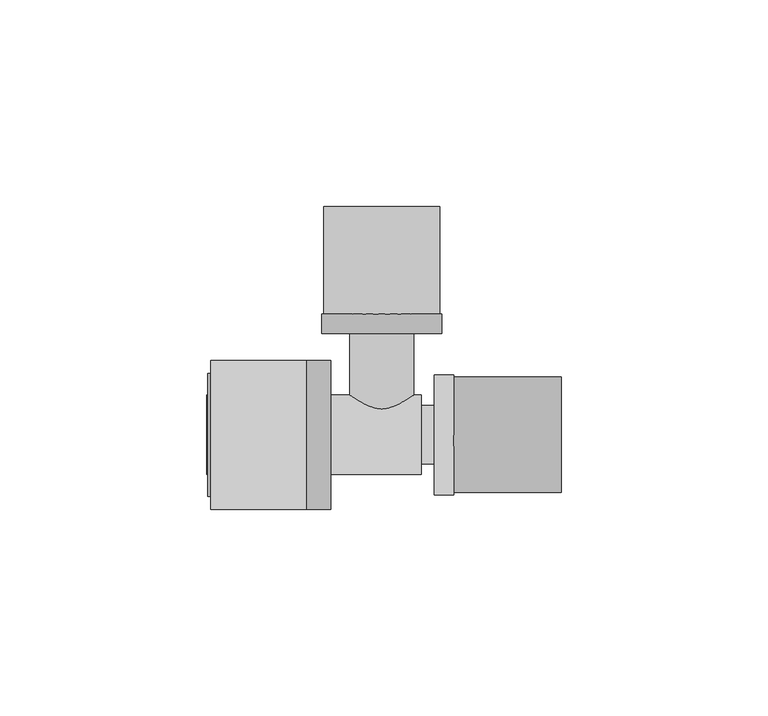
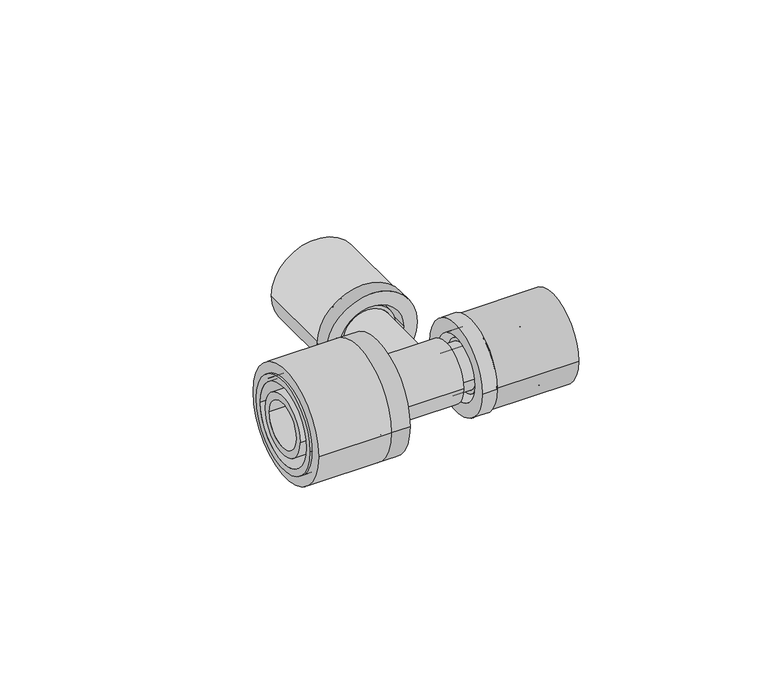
"""IFC4 building model written with IfcOpenShell, lengths in millimetres: pipe fitting geometry, FASTLOC_T-piece_EX+ : FSL T-Piece EX+ AT."""

import ifcopenshell
import ifcopenshell.guid

model = None  # the IFC model being written
_history = None  # IfcOwnerHistory: only IFC2X3 demands one
_inside = {}  # id of a spatial element -> (the spatial element, [elements in it])
_under = {}  # id of a project, library or spatial element -> (it, [spatial elements below it])
_declared = {}  # id of a project -> (the project, [libraries it declares])
_typed = {}  # id of a type object -> (the type object, [elements of that type])
_made_of = {}  # id of a material, layer set ... -> (it, [elements and type objects made of it])


def new_model(schema):
    """Start an empty IFC model of exactly this schema.

    Asked for "IFC4X3", IfcOpenShell would pick the latest addendum, in which some entities
    have other attributes; the version numbers below select the first issue.
    IFC2X3 requires an IfcOwnerHistory on every rooted entity: one is made here for all.
    """
    global model, _history
    if schema == "IFC4X3":
        model = ifcopenshell.file(schema_version=(4, 3, 0, 0))
    else:
        model = ifcopenshell.file(schema=schema)
    _inside.clear()
    _under.clear()
    _declared.clear()
    _typed.clear()
    _made_of.clear()
    _history = None
    if model.schema == "IFC2X3":
        org = make("IfcOrganization", Name="unknown")
        user = make(
            "IfcPersonAndOrganization",
            ThePerson=make("IfcPerson", FamilyName="unknown"),
            TheOrganization=org,
        )
        app = make(
            "IfcApplication",
            ApplicationDeveloper=org,
            Version="unknown",
            ApplicationFullName="unknown",
            ApplicationIdentifier="unknown",
        )
        _history = make(
            "IfcOwnerHistory",
            OwningUser=user,
            OwningApplication=app,
            ChangeAction="ADDED",
            CreationDate=0,
        )
    return model


def make(cls, **values):
    """One entity of the class cls with the attributes given. An attribute that is None is left unset."""
    return model.create_entity(
        cls, **{name: value for name, value in values.items() if value is not None}
    )


def rooted(cls, **values):
    """An entity with a GlobalId (a new one), such as an element, a storey or a relation."""
    return make(cls, GlobalId=ifcopenshell.guid.new(), OwnerHistory=_history, **values)


def si_unit(unit_type, name, prefix=None):
    """IfcSIUnit, for example si_unit("LENGTHUNIT", "METRE", prefix="MILLI")."""
    return make("IfcSIUnit", UnitType=unit_type, Prefix=prefix, Name=name)


def assignment(units):
    """IfcUnitAssignment: the units of a project."""
    return None if units is None else make("IfcUnitAssignment", Units=units)


def point(xyz):
    """IfcCartesianPoint."""
    return None if xyz is None else make("IfcCartesianPoint", Coordinates=xyz)


def direction(xyz):
    """IfcDirection."""
    return None if xyz is None else make("IfcDirection", DirectionRatios=xyz)


def frame(location, z_axis=None, x_axis=None):
    """IfcAxis2Placement3D, a coordinate frame: its origin and axes. An axis left out is left unset."""
    return make(
        "IfcAxis2Placement3D",
        Location=point(location),
        Axis=direction(z_axis),
        RefDirection=direction(x_axis),
    )


def frame_2d(location, x_axis=None):
    """IfcAxis2Placement2D, a coordinate frame in the plane: its origin and x axis."""
    return make(
        "IfcAxis2Placement2D", Location=point(location), RefDirection=direction(x_axis)
    )


def origin():
    """The frame at (0, 0, 0) with its axes left unset."""
    return frame((0.0, 0.0, 0.0))


def origin_2d():
    """The frame at (0, 0) in the plane with its x axis left unset."""
    return frame_2d((0.0, 0.0))


def place(relative_to, where):
    """IfcLocalPlacement: puts the frame where relative to a parent placement (None: the world)."""
    return make(
        "IfcLocalPlacement", PlacementRelTo=relative_to, RelativePlacement=where
    )


def context(
    kind, dimensions, precision=None, world=None, true_north=None, identifier=None
):
    """IfcGeometricRepresentationContext, for example the 3D "Model" context."""
    return make(
        "IfcGeometricRepresentationContext",
        ContextIdentifier=identifier,
        ContextType=kind,
        CoordinateSpaceDimension=dimensions,
        Precision=precision,
        WorldCoordinateSystem=world,
        TrueNorth=true_north,
    )


def project(units=None, contexts=None):
    """IfcProject with its units and contexts."""
    return rooted(
        "IfcProject",
        Name="project",
        RepresentationContexts=contexts,
        UnitsInContext=assignment(units),
    )


def spatial(cls, under=None, at=None, **own):
    """A site, building, storey or space (cls), placed at a placement, below another one or the project."""
    s = rooted(cls, ObjectPlacement=at, **own)
    if under is not None:
        _under.setdefault(under.id(), (under, []))[1].append(s)
    return s


def polyline(points):
    """IfcPolyline through the points."""
    return make("IfcPolyline", Points=[point(p) for p in points])


def circle_curve(where, radius):
    """IfcCircle in the frame where."""
    return make("IfcCircle", Position=where, Radius=radius)


def trimmed(basis, trim1, trim2, sense, master):
    """IfcTrimmedCurve: the piece of a basis curve between two trims."""
    return make(
        "IfcTrimmedCurve",
        BasisCurve=basis,
        Trim1=trim1,
        Trim2=trim2,
        SenseAgreement=sense,
        MasterRepresentation=master,
    )


def segment(curve, same_sense, transition):
    """IfcCompositeCurveSegment."""
    return make(
        "IfcCompositeCurveSegment",
        Transition=transition,
        SameSense=same_sense,
        ParentCurve=curve,
    )


def composite_curve(segments, self_intersect=None):
    """IfcCompositeCurve: segments joined end to end."""
    return make("IfcCompositeCurve", Segments=segments, SelfIntersect=self_intersect)


def outline(outer, holes=None, kind="AREA"):
    """IfcArbitraryClosedProfileDef: a profile drawn as a closed curve; with holes, ...WithVoids."""
    if holes is None:
        return make("IfcArbitraryClosedProfileDef", ProfileType=kind, OuterCurve=outer)
    return make(
        "IfcArbitraryProfileDefWithVoids",
        ProfileType=kind,
        OuterCurve=outer,
        InnerCurves=holes,
    )


def extrude(swept, where, along, depth):
    """IfcExtrudedAreaSolid: the profile swept, set in the frame where, extruded along a direction by depth."""
    return make(
        "IfcExtrudedAreaSolid",
        SweptArea=swept,
        Position=where,
        ExtrudedDirection=direction(along),
        Depth=depth,
    )


def shape(context_of_items, identifier, shape_type, items):
    """IfcShapeRepresentation: the items that make up one representation, for example the "Body"."""
    return make(
        "IfcShapeRepresentation",
        ContextOfItems=context_of_items,
        RepresentationIdentifier=identifier,
        RepresentationType=shape_type,
        Items=items,
    )


def source(mapping_origin, context_of_items, identifier, shape_type, items):
    """IfcRepresentationMap: a shape defined once, which mapped items show again and again."""
    return make(
        "IfcRepresentationMap",
        MappingOrigin=mapping_origin,
        MappedRepresentation=shape(context_of_items, identifier, shape_type, items),
    )


def transform(
    local_origin,
    x_axis=None,
    y_axis=None,
    z_axis=None,
    scale=None,
    scale2=None,
    scale3=None,
    uniform=True,
):
    """IfcCartesianTransformationOperator3D, or its non-uniform kind. x_axis, y_axis, z_axis: its Axis1, 2, 3."""
    if uniform:
        return make(
            "IfcCartesianTransformationOperator3D",
            Axis1=direction(x_axis),
            Axis2=direction(y_axis),
            LocalOrigin=point(local_origin),
            Scale=scale,
            Axis3=direction(z_axis),
        )
    return make(
        "IfcCartesianTransformationOperator3DnonUniform",
        Axis1=direction(x_axis),
        Axis2=direction(y_axis),
        LocalOrigin=point(local_origin),
        Scale=scale,
        Axis3=direction(z_axis),
        Scale2=scale2,
        Scale3=scale3,
    )


def mapped(mapping_source, mapping_target):
    """IfcMappedItem: shows the shape of a source again, moved by a transform."""
    return make(
        "IfcMappedItem", MappingSource=mapping_source, MappingTarget=mapping_target
    )


def made_of(thing, what):
    """Note that an element or type object is made of a material, layer set ...; save() writes the relation."""
    if what is not None:
        _made_of.setdefault(what.id(), (what, []))[1].append(thing)
    return thing


def element(
    cls,
    number,
    at=None,
    inside=None,
    cuts=None,
    type_object=None,
    material=None,
    context=None,
    identifier="Body",
    shape_type=None,
    held_by="IfcProductDefinitionShape",
    body=None,
    shapes=None,
    **own,
):
    """One element of the class cls, such as IfcWall. Its Tag is "e" and its number.

    at: its placement. inside: the storey or other place that contains it. cuts: it is an
    opening in that element (IfcRelVoidsElement). A single representation is given by context,
    identifier, shape_type and body (its items); several are given by shapes. held_by: the class
    of the entity that holds the representations. save() writes the other relations.
    """
    e = rooted(cls, Tag="e%d" % number, ObjectPlacement=at, **own)
    if body is not None:
        shapes = [shape(context, identifier, shape_type, body)]
    if shapes is not None:
        e.Representation = make(held_by, Representations=shapes)
    if inside is not None:
        _inside.setdefault(inside.id(), (inside, []))[1].append(e)
    if cuts is not None:
        rooted(
            "IfcRelVoidsElement", RelatingBuildingElement=cuts, RelatedOpeningElement=e
        )
    if type_object is not None:
        _typed.setdefault(type_object.id(), (type_object, []))[1].append(e)
    return made_of(e, material)


def aggregate(whole, parts):
    """IfcRelAggregates: a whole, such as a stair, and the parts it consists of."""
    return rooted("IfcRelAggregates", RelatingObject=whole, RelatedObjects=parts)


def save(model, path):
    """Write the relations noted so far, then the file.

    IfcRelAggregates (storeys below a building ...), IfcRelContainedInSpatialStructure (elements
    in a storey), IfcRelDefinesByType, IfcRelAssociatesMaterial and IfcRelDeclares: one each for
    every whole, place, type object, material and project.
    """
    for whole, parts in _under.values():
        aggregate(whole, parts)
    for where, things in _inside.values():
        rooted(
            "IfcRelContainedInSpatialStructure",
            RelatedElements=things,
            RelatingStructure=where,
        )
    for kind, things in _typed.values():
        rooted("IfcRelDefinesByType", RelatedObjects=things, RelatingType=kind)
    for what, things in _made_of.values():
        rooted("IfcRelAssociatesMaterial", RelatedObjects=things, RelatingMaterial=what)
    for by, libraries in _declared.values():
        rooted("IfcRelDeclares", RelatingContext=by, RelatedDefinitions=libraries)
    model.write(path)


def plane_surface(at):
    """IfcPlane: the flat surface through the origin of the frame at, square to its z axis."""
    return make("IfcPlane", Position=at)


def cylinder_surface(at, radius):
    """IfcCylindricalSurface: all points at the distance radius from the z axis of the frame at."""
    return make("IfcCylindricalSurface", Position=at, Radius=radius)


def revolved_surface(curve, axis_point, axis_direction):
    """IfcSurfaceOfRevolution: the curve turned about the line through axis_point along axis_direction."""
    return make(
        "IfcSurfaceOfRevolution",
        SweptCurve=make("IfcArbitraryOpenProfileDef", ProfileType="CURVE", Curve=curve),
        AxisPosition=make("IfcAxis1Placement", Location=point(axis_point), Axis=direction(axis_direction)),
    )


def advanced_brep(points, edges, surfaces, faces):
    """IfcAdvancedBrep: a solid bounded by faces that lie on surfaces and meet in shared edges.

    An edge is (start, end): straight between two places in points (the first is 0);
    or (start, end, curve); or (start, end, curve, False) where it runs against its curve.
    A face is (place in surfaces, loops), or (place, loops, False) where it looks against
    its surface's normal. A loop lists edges by number (the first is 1), with a minus sign
    where the edge is run from its end to its start. The first loop is the outer one.
    """
    corners = [point(p) for p in points]
    vertices = [make("IfcVertexPoint", VertexGeometry=c) for c in corners]
    made = []
    for start, end, *more in edges:
        made.append(
            make(
                "IfcEdgeCurve",
                EdgeStart=vertices[start],
                EdgeEnd=vertices[end],
                EdgeGeometry=more[0] if more else make("IfcPolyline", Points=[corners[start], corners[end]]),
                SameSense=more[1] if len(more) > 1 else True,
            )
        )
    hull = []
    for where, loops, *sense in faces:
        bounds = []
        for j, loop in enumerate(loops):
            ring = [make("IfcOrientedEdge", EdgeElement=made[abs(k) - 1], Orientation=k > 0) for k in loop]
            bounds.append(
                make(
                    "IfcFaceOuterBound" if j == 0 else "IfcFaceBound",
                    Bound=make("IfcEdgeLoop", EdgeList=ring),
                    Orientation=True,
                )
            )
        hull.append(make("IfcAdvancedFace", Bounds=bounds, FaceSurface=surfaces[where], SameSense=sense[0] if sense else True))
    return make("IfcAdvancedBrep", Outer=make("IfcClosedShell", CfsFaces=hull))


def pipe_fitting_baae1e9c(model_context):
    return source(origin(), model_context, "Body", "SolidModel", [
        extrude(outline(composite_curve([segment(trimmed(circle_curve(origin_2d(), 14.0), [point((-14.0, 0.0))], [point((14.0, 0.0))], False, "CARTESIAN"), True, "CONTINUOUS"), segment(trimmed(circle_curve(origin_2d(), 14.0), [point((14.0, 0.0))], [point((-14.0, 0.0))], False, "CARTESIAN"), True, "CONTINUOUS")], self_intersect=False), holes=[composite_curve([segment(trimmed(circle_curve(origin_2d(), 10.7), [point((-10.7, 0.0))], [point((10.7, 0.0))], True, "CARTESIAN"), True, "CONTINUOUS"), segment(trimmed(circle_curve(origin_2d(), 10.7), [point((10.7, 0.0))], [point((-10.7, 0.0))], True, "CARTESIAN"), True, "CONTINUOUS")], self_intersect=False)]), frame((17.4, 0.0, 0.0), z_axis=(1.0, 0.0, 0.0), x_axis=(0.0, 1.0, 0.0)), (0.0, 0.0, 1.0), 26.0),
        advanced_brep(
        [(17.4, 14.5, 0.0), (17.4, -14.5, 0.0), (12.7, -14.5, 0.0), (12.7, 14.5, 0.0), (34.4, 11.85, 0.0), (34.4, -11.85, 0.0), (17.4, -11.85, 0.0), (17.4, 11.85, 0.0), (12.7, 10.15, 0.0), (12.7, -10.15, 0.0), (34.4, -10.15, 0.0), (34.4, 10.15, 0.0)],
        [
            (0, 1, circle_curve(frame((17.4, 0.0, 0.0), z_axis=(-1.0, 0.0, 0.0), x_axis=(0.0, -1.0, 0.0)), 14.5)),
            (1, 2),
            (2, 3, circle_curve(frame((12.7, 0.0, 0.0), z_axis=(1.0, 0.0, 0.0), x_axis=(0.0, -1.0, 0.0)), 14.5)),
            (3, 0),
            (4, 5, circle_curve(frame((34.4, 0.0, 0.0), z_axis=(-1.0, 0.0, 0.0), x_axis=(0.0, -1.0, 0.0)), 11.85)),
            (5, 6),
            (6, 7, circle_curve(frame((17.4, 0.0, 0.0), z_axis=(1.0, 0.0, 0.0), x_axis=(0.0, -1.0, 0.0)), 11.85)),
            (7, 4),
            (8, 9, circle_curve(frame((12.7, 0.0, 0.0), z_axis=(-1.0, 0.0, 0.0), x_axis=(0.0, -1.0, 0.0)), 10.15)),
            (9, 10),
            (10, 11, circle_curve(frame((34.4, 0.0, 0.0), z_axis=(1.0, 0.0, 0.0), x_axis=(0.0, -1.0, 0.0)), 10.15)),
            (11, 8),
            (1, 0, circle_curve(frame((17.4, 0.0, 0.0), z_axis=(-1.0, 0.0, 0.0), x_axis=(0.0, 1.0, 0.0)), 14.5)),
            (3, 2, circle_curve(frame((12.7, 0.0, 0.0), z_axis=(1.0, 0.0, 0.0), x_axis=(0.0, 1.0, 0.0)), 14.5)),
            (6, 7, circle_curve(frame((17.4, 0.0, 0.0), z_axis=(-1.0, 0.0, 0.0), x_axis=(0.0, 1.0, 0.0)), 11.85)),
            (5, 4, circle_curve(frame((34.4, 0.0, 0.0), z_axis=(-1.0, 0.0, 0.0), x_axis=(0.0, 1.0, 0.0)), 11.85)),
            (10, 11, circle_curve(frame((34.4, 0.0, 0.0), z_axis=(-1.0, 0.0, 0.0), x_axis=(0.0, 1.0, 0.0)), 10.15)),
            (9, 8, circle_curve(frame((12.7, 0.0, 0.0), z_axis=(-1.0, 0.0, 0.0), x_axis=(0.0, 1.0, 0.0)), 10.15)),
        ],
        [
            cylinder_surface(frame((12.7, 0.0, 0.0), z_axis=(1.0, 0.0, 0.0), x_axis=(0.0, -1.0, 0.0)), 14.5),
            cylinder_surface(frame((12.7, 0.0, 0.0), z_axis=(1.0, 0.0, 0.0), x_axis=(0.0, -1.0, 0.0)), 11.85),
            revolved_surface(polyline([(34.4, -10.15, 0.0), (12.7, -10.15, 0.0)]), (12.7, 0.0, 0.0), (1.0, 0.0, 0.0)),
            cylinder_surface(frame((12.7, 0.0, 0.0), z_axis=(1.0, 0.0, 0.0), x_axis=(0.0, 1.0, 0.0)), 14.5),
            plane_surface(frame((17.4, 0.0, 0.0), z_axis=(1.0, 0.0, 0.0), x_axis=(0.0, 1.0, 0.0))),
            cylinder_surface(frame((12.7, 0.0, 0.0), z_axis=(1.0, 0.0, 0.0), x_axis=(0.0, 1.0, 0.0)), 11.85),
            plane_surface(frame((34.4, 0.0, 0.0), z_axis=(1.0, 0.0, 0.0), x_axis=(0.0, 1.0, 0.0))),
            revolved_surface(polyline([(34.4, 10.15, 0.0), (12.7, 10.15, 0.0)]), (12.7, 0.0, 0.0), (1.0, 0.0, 0.0)),
            plane_surface(frame((12.7, 0.0, 0.0), z_axis=(-1.0, 0.0, 0.0), x_axis=(0.0, 1.0, 0.0))),
        ],
        [
            (0, [[1, 2, 3, 4]]),
            (1, [[5, 6, 7, 8]]),
            (2, [[9, 10, 11, 12]]),
            (3, [[13, -4, 14, -2]]),
            (4, [[-13, -1], [15, -7]]),
            (5, [[16, -8, -15, -6]]),
            (6, [[-16, -5], [17, -11]]),
            (7, [[18, -12, -17, -10]]),
            (8, [[-14, -3], [-18, -9]]),
        ],
    ),
        extrude(outline(composite_curve([segment(trimmed(circle_curve(origin_2d(), 18.0), [point((18.0, 0.0))], [point((-18.0, 0.0))], False, "CARTESIAN"), True, "CONTINUOUS"), segment(trimmed(circle_curve(origin_2d(), 18.0), [point((-18.0, 0.0))], [point((18.0, 0.0))], False, "CARTESIAN"), True, "CONTINUOUS")], self_intersect=False), holes=[composite_curve([segment(trimmed(circle_curve(origin_2d(), 13.5), [point((13.5, 0.0))], [point((-13.5, 0.0))], True, "CARTESIAN"), True, "CONTINUOUS"), segment(trimmed(circle_curve(origin_2d(), 13.5), [point((-13.5, 0.0))], [point((13.5, 0.0))], True, "CARTESIAN"), True, "CONTINUOUS")], self_intersect=False)]), frame((-41.3, 0.0, 0.0), z_axis=(1.0, 0.0, 0.0), x_axis=(0.0, 1.0, 0.0)), (0.0, 0.0, 1.0), 23.0),
        advanced_brep(
        [(-18.3, -18.0, 0.0), (-18.3, 18.0, 0.0), (-12.3, 18.0, 0.0), (-12.3, -18.0, 0.0), (-42.1, -14.85, 0.0), (-42.1, 14.85, 0.0), (-18.3, 14.85, 0.0), (-18.3, -14.85, 0.0), (-12.3, -12.65, 0.0), (-12.3, 12.65, 0.0), (-42.1, 12.65, 0.0), (-42.1, -12.65, 0.0)],
        [
            (0, 1, circle_curve(frame((-18.3, 0.0, 0.0), z_axis=(1.0, 0.0, 0.0), x_axis=(0.0, 1.0, 0.0)), 18.0)),
            (1, 2),
            (2, 3, circle_curve(frame((-12.3, 0.0, 0.0), z_axis=(-1.0, 0.0, 0.0), x_axis=(0.0, 1.0, 0.0)), 18.0)),
            (3, 0),
            (4, 5, circle_curve(frame((-42.1, 0.0, 0.0), z_axis=(1.0, 0.0, 0.0), x_axis=(0.0, 1.0, 0.0)), 14.85)),
            (5, 6),
            (6, 7, circle_curve(frame((-18.3, 0.0, 0.0), z_axis=(-1.0, 0.0, 0.0), x_axis=(0.0, 1.0, 0.0)), 14.85)),
            (7, 4),
            (8, 9, circle_curve(frame((-12.3, 0.0, 0.0), z_axis=(1.0, 0.0, 0.0), x_axis=(0.0, 1.0, 0.0)), 12.65)),
            (9, 10),
            (10, 11, circle_curve(frame((-42.1, 0.0, 0.0), z_axis=(-1.0, 0.0, 0.0), x_axis=(0.0, 1.0, 0.0)), 12.65)),
            (11, 8),
            (1, 0, circle_curve(frame((-18.3, 0.0, 0.0), z_axis=(1.0, 0.0, 0.0), x_axis=(0.0, -1.0, 0.0)), 18.0)),
            (3, 2, circle_curve(frame((-12.3, 0.0, 0.0), z_axis=(-1.0, 0.0, 0.0), x_axis=(0.0, -1.0, 0.0)), 18.0)),
            (6, 7, circle_curve(frame((-18.3, 0.0, 0.0), z_axis=(1.0, 0.0, 0.0), x_axis=(0.0, -1.0, 0.0)), 14.85)),
            (5, 4, circle_curve(frame((-42.1, 0.0, 0.0), z_axis=(1.0, 0.0, 0.0), x_axis=(0.0, -1.0, 0.0)), 14.85)),
            (10, 11, circle_curve(frame((-42.1, 0.0, 0.0), z_axis=(1.0, 0.0, 0.0), x_axis=(0.0, -1.0, 0.0)), 12.65)),
            (9, 8, circle_curve(frame((-12.3, 0.0, 0.0), z_axis=(1.0, 0.0, 0.0), x_axis=(0.0, -1.0, 0.0)), 12.65)),
        ],
        [
            cylinder_surface(frame((-12.3, 0.0, 0.0), z_axis=(-1.0, 0.0, 0.0), x_axis=(0.0, 1.0, 0.0)), 18.0),
            cylinder_surface(frame((-12.3, 0.0, 0.0), z_axis=(-1.0, 0.0, 0.0), x_axis=(0.0, 1.0, 0.0)), 14.85),
            revolved_surface(polyline([(-42.1, 12.65, 0.0), (-12.3, 12.65, 0.0)]), (-12.3, 0.0, 0.0), (-1.0, 0.0, 0.0)),
            cylinder_surface(frame((-12.3, 0.0, 0.0), z_axis=(-1.0, 0.0, 0.0), x_axis=(0.0, -1.0, 0.0)), 18.0),
            plane_surface(frame((-18.3, 0.0, 0.0), z_axis=(-1.0, 0.0, 0.0), x_axis=(0.0, -1.0, 0.0))),
            cylinder_surface(frame((-12.3, 0.0, 0.0), z_axis=(-1.0, 0.0, 0.0), x_axis=(0.0, -1.0, 0.0)), 14.85),
            plane_surface(frame((-42.1, 0.0, 0.0), z_axis=(-1.0, 0.0, 0.0), x_axis=(0.0, -1.0, 0.0))),
            revolved_surface(polyline([(-42.1, -12.65, 0.0), (-12.3, -12.65, 0.0)]), (-12.3, 0.0, 0.0), (-1.0, 0.0, 0.0)),
            plane_surface(frame((-12.3, 0.0, 0.0), z_axis=(1.0, 0.0, 0.0), x_axis=(0.0, -1.0, 0.0))),
        ],
        [
            (0, [[1, 2, 3, 4]]),
            (1, [[5, 6, 7, 8]]),
            (2, [[9, 10, 11, 12]]),
            (3, [[13, -4, 14, -2]]),
            (4, [[-13, -1], [15, -7]]),
            (5, [[16, -8, -15, -6]]),
            (6, [[-16, -5], [17, -11]]),
            (7, [[18, -12, -17, -10]]),
            (8, [[-14, -3], [-18, -9]]),
        ],
    ),
        extrude(outline(composite_curve([segment(trimmed(circle_curve(origin_2d(), 14.0), [point((0.0, 14.0))], [point((0.0, -14.0))], False, "CARTESIAN"), True, "CONTINUOUS"), segment(trimmed(circle_curve(origin_2d(), 14.0), [point((0.0, -14.0))], [point((0.0, 14.0))], False, "CARTESIAN"), True, "CONTINUOUS")], self_intersect=False), holes=[composite_curve([segment(trimmed(circle_curve(origin_2d(), 10.7), [point((0.0, 10.7))], [point((0.0, -10.7))], True, "CARTESIAN"), True, "CONTINUOUS"), segment(trimmed(circle_curve(origin_2d(), 10.7), [point((0.0, -10.7))], [point((0.0, 10.7))], True, "CARTESIAN"), True, "CONTINUOUS")], self_intersect=False)]), frame((0.0, 29.2, 0.0), z_axis=(0.0, 1.0, 0.0), x_axis=(0.0, 0.0, 1.0)), (0.0, 0.0, 1.0), 26.0),
        advanced_brep(
        [(-14.5, 29.2, 0.0), (14.5, 29.2, 0.0), (14.5, 24.5, 0.0), (-14.5, 24.5, 0.0), (-11.85, 46.2, 0.0), (11.85, 46.2, 0.0), (11.85, 29.2, 0.0), (-11.85, 29.2, 0.0), (-10.15, 24.5, 0.0), (10.15, 24.5, 0.0), (10.15, 46.2, 0.0), (-10.15, 46.2, 0.0)],
        [
            (0, 1, circle_curve(frame((0.0, 29.2, 0.0), z_axis=(0.0, -1.0, 0.0), x_axis=(1.0, 0.0, 0.0)), 14.5)),
            (1, 2),
            (2, 3, circle_curve(frame((0.0, 24.5, 0.0), z_axis=(0.0, 1.0, 0.0), x_axis=(1.0, 0.0, 0.0)), 14.5)),
            (3, 0),
            (4, 5, circle_curve(frame((0.0, 46.2, 0.0), z_axis=(0.0, -1.0, 0.0), x_axis=(1.0, 0.0, 0.0)), 11.85)),
            (5, 6),
            (6, 7, circle_curve(frame((0.0, 29.2, 0.0), z_axis=(0.0, 1.0, 0.0), x_axis=(1.0, 0.0, 0.0)), 11.85)),
            (7, 4),
            (8, 9, circle_curve(frame((0.0, 24.5, 0.0), z_axis=(0.0, -1.0, 0.0), x_axis=(1.0, 0.0, 0.0)), 10.15)),
            (9, 10),
            (10, 11, circle_curve(frame((0.0, 46.2, 0.0), z_axis=(0.0, 1.0, 0.0), x_axis=(1.0, 0.0, 0.0)), 10.15)),
            (11, 8),
            (1, 0, circle_curve(frame((0.0, 29.2, 0.0), z_axis=(0.0, -1.0, 0.0), x_axis=(-1.0, 0.0, 0.0)), 14.5)),
            (3, 2, circle_curve(frame((0.0, 24.5, 0.0), z_axis=(0.0, 1.0, 0.0), x_axis=(-1.0, 0.0, 0.0)), 14.5)),
            (6, 7, circle_curve(frame((0.0, 29.2, 0.0), z_axis=(0.0, -1.0, 0.0), x_axis=(-1.0, 0.0, 0.0)), 11.85)),
            (5, 4, circle_curve(frame((0.0, 46.2, 0.0), z_axis=(0.0, -1.0, 0.0), x_axis=(-1.0, 0.0, 0.0)), 11.85)),
            (10, 11, circle_curve(frame((0.0, 46.2, 0.0), z_axis=(0.0, -1.0, 0.0), x_axis=(-1.0, 0.0, 0.0)), 10.15)),
            (9, 8, circle_curve(frame((0.0, 24.5, 0.0), z_axis=(0.0, -1.0, 0.0), x_axis=(-1.0, 0.0, 0.0)), 10.15)),
        ],
        [
            cylinder_surface(frame((0.0, 24.5, 0.0), z_axis=(0.0, 1.0, 0.0), x_axis=(1.0, 0.0, 0.0)), 14.5),
            cylinder_surface(frame((0.0, 24.5, 0.0), z_axis=(0.0, 1.0, 0.0), x_axis=(1.0, 0.0, 0.0)), 11.85),
            revolved_surface(polyline([(10.15, 46.2, 0.0), (10.15, 24.5, 0.0)]), (0.0, 24.5, 0.0), (0.0, 1.0, 0.0)),
            cylinder_surface(frame((0.0, 24.5, 0.0), z_axis=(0.0, 1.0, 0.0), x_axis=(-1.0, 0.0, 0.0)), 14.5),
            plane_surface(frame((0.0, 29.2, 0.0), z_axis=(0.0, 1.0, 0.0), x_axis=(-1.0, 0.0, 0.0))),
            cylinder_surface(frame((0.0, 24.5, 0.0), z_axis=(0.0, 1.0, 0.0), x_axis=(-1.0, 0.0, 0.0)), 11.85),
            plane_surface(frame((0.0, 46.2, 0.0), z_axis=(0.0, 1.0, 0.0), x_axis=(-1.0, 0.0, 0.0))),
            revolved_surface(polyline([(-10.15, 46.2, 0.0), (-10.15, 24.5, 0.0)]), (0.0, 24.5, 0.0), (0.0, 1.0, 0.0)),
            plane_surface(frame((0.0, 24.5, 0.0), z_axis=(0.0, -1.0, 0.0), x_axis=(-1.0, 0.0, 0.0))),
        ],
        [
            (0, [[1, 2, 3, 4]]),
            (1, [[5, 6, 7, 8]]),
            (2, [[9, 10, 11, 12]]),
            (3, [[13, -4, 14, -2]]),
            (4, [[-13, -1], [15, -7]]),
            (5, [[16, -8, -15, -6]]),
            (6, [[-16, -5], [17, -11]]),
            (7, [[18, -12, -17, -10]]),
            (8, [[-14, -3], [-18, -9]]),
        ],
    ),
        advanced_brep(
        [(14.73, 7.1, 0.0), (14.73, -7.1, 0.0), (9.5, -7.1, 0.0), (9.5, 7.1, 0.0), (17.4, 8.15, 0.0), (17.4, -8.15, 0.0), (14.73, -8.15, 0.0), (14.73, 8.15, 0.0), (34.8, 7.1, 0.0), (34.8, -7.1, 0.0), (17.4, -7.1, 0.0), (17.4, 7.1, 0.0), (7.5, 5.1, 0.0), (7.5, -5.1, 0.0), (34.8, -5.1, 0.0), (34.8, 5.1, 0.0), (-42.3, 7.35, 0.0), (-42.3, -7.35, 0.0), (7.5, -7.35, 0.0), (7.5, 7.35, 0.0), (-18.3, 9.6, 0.0), (-18.3, -9.6, 0.0), (-42.3, -9.6, 0.0), (-42.3, 9.6, 0.0), (-15.5, 11.1, 0.0), (-15.5, -11.1, 0.0), (-18.3, -11.1, 0.0), (-18.3, 11.1, 0.0), (9.5, 9.6, 0.0), (9.5, -9.6, 0.0), (-15.5, -9.6, 0.0), (-15.5, 9.6, 0.0)],
        [
            (0, 1, circle_curve(frame((14.73, 0.0, 0.0), z_axis=(-1.0, 0.0, 0.0), x_axis=(0.0, -1.0, 0.0)), 7.1)),
            (1, 2),
            (2, 3, circle_curve(frame((9.5, 0.0, 0.0), z_axis=(1.0, 0.0, 0.0), x_axis=(0.0, -1.0, 0.0)), 7.1)),
            (3, 0),
            (4, 5, circle_curve(frame((17.4, 0.0, 0.0), z_axis=(-1.0, 0.0, 0.0), x_axis=(0.0, -1.0, 0.0)), 8.15)),
            (5, 6),
            (6, 7, circle_curve(frame((14.73, 0.0, 0.0), z_axis=(1.0, 0.0, 0.0), x_axis=(0.0, -1.0, 0.0)), 8.15)),
            (7, 4),
            (8, 9, circle_curve(frame((34.8, 0.0, 0.0), z_axis=(-1.0, 0.0, 0.0), x_axis=(0.0, -1.0, 0.0)), 7.1)),
            (9, 10),
            (10, 11, circle_curve(frame((17.4, 0.0, 0.0), z_axis=(1.0, 0.0, 0.0), x_axis=(0.0, -1.0, 0.0)), 7.1)),
            (11, 8),
            (12, 13, circle_curve(frame((7.5, 0.0, 0.0), z_axis=(-1.0, 0.0, 0.0), x_axis=(0.0, -1.0, 0.0)), 5.1)),
            (13, 14),
            (14, 15, circle_curve(frame((34.8, 0.0, 0.0), z_axis=(1.0, 0.0, 0.0), x_axis=(0.0, -1.0, 0.0)), 5.1)),
            (15, 12),
            (16, 17, circle_curve(frame((-42.3, 0.0, 0.0), z_axis=(-1.0, 0.0, 0.0), x_axis=(0.0, -1.0, 0.0)), 7.35)),
            (17, 18),
            (18, 19, circle_curve(frame((7.5, 0.0, 0.0), z_axis=(1.0, 0.0, 0.0), x_axis=(0.0, -1.0, 0.0)), 7.35)),
            (19, 16),
            (20, 21, circle_curve(frame((-18.3, 0.0, 0.0), z_axis=(-1.0, 0.0, 0.0), x_axis=(0.0, -1.0, 0.0)), 9.6)),
            (21, 22),
            (22, 23, circle_curve(frame((-42.3, 0.0, 0.0), z_axis=(1.0, 0.0, 0.0), x_axis=(0.0, -1.0, 0.0)), 9.6)),
            (23, 20),
            (24, 25, circle_curve(frame((-15.5, 0.0, 0.0), z_axis=(-1.0, 0.0, 0.0), x_axis=(0.0, -1.0, 0.0)), 11.1)),
            (25, 26),
            (26, 27, circle_curve(frame((-18.3, 0.0, 0.0), z_axis=(1.0, 0.0, 0.0), x_axis=(0.0, -1.0, 0.0)), 11.1)),
            (27, 24),
            (28, 29, circle_curve(frame((9.5, 0.0, 0.0), z_axis=(-1.0, 0.0, 0.0), x_axis=(0.0, -1.0, 0.0)), 9.6)),
            (29, 30),
            (30, 31, circle_curve(frame((-15.5, 0.0, 0.0), z_axis=(1.0, 0.0, 0.0), x_axis=(0.0, -1.0, 0.0)), 9.6)),
            (31, 28),
            (28, 29, circle_curve(frame((9.5, 0.0, 0.0), z_axis=(1.0, 0.0, 0.0), x_axis=(0.0, 1.0, 0.0)), 9.6)),
            (2, 3, circle_curve(frame((9.5, 0.0, 0.0), z_axis=(-1.0, 0.0, 0.0), x_axis=(0.0, 1.0, 0.0)), 7.1)),
            (1, 0, circle_curve(frame((14.73, 0.0, 0.0), z_axis=(-1.0, 0.0, 0.0), x_axis=(0.0, 1.0, 0.0)), 7.1)),
            (6, 7, circle_curve(frame((14.73, 0.0, 0.0), z_axis=(-1.0, 0.0, 0.0), x_axis=(0.0, 1.0, 0.0)), 8.15)),
            (5, 4, circle_curve(frame((17.4, 0.0, 0.0), z_axis=(-1.0, 0.0, 0.0), x_axis=(0.0, 1.0, 0.0)), 8.15)),
            (10, 11, circle_curve(frame((17.4, 0.0, 0.0), z_axis=(-1.0, 0.0, 0.0), x_axis=(0.0, 1.0, 0.0)), 7.1)),
            (9, 8, circle_curve(frame((34.8, 0.0, 0.0), z_axis=(-1.0, 0.0, 0.0), x_axis=(0.0, 1.0, 0.0)), 7.1)),
            (14, 15, circle_curve(frame((34.8, 0.0, 0.0), z_axis=(-1.0, 0.0, 0.0), x_axis=(0.0, 1.0, 0.0)), 5.1)),
            (13, 12, circle_curve(frame((7.5, 0.0, 0.0), z_axis=(-1.0, 0.0, 0.0), x_axis=(0.0, 1.0, 0.0)), 5.1)),
            (18, 19, circle_curve(frame((7.5, 0.0, 0.0), z_axis=(-1.0, 0.0, 0.0), x_axis=(0.0, 1.0, 0.0)), 7.35)),
            (17, 16, circle_curve(frame((-42.3, 0.0, 0.0), z_axis=(-1.0, 0.0, 0.0), x_axis=(0.0, 1.0, 0.0)), 7.35)),
            (22, 23, circle_curve(frame((-42.3, 0.0, 0.0), z_axis=(-1.0, 0.0, 0.0), x_axis=(0.0, 1.0, 0.0)), 9.6)),
            (21, 20, circle_curve(frame((-18.3, 0.0, 0.0), z_axis=(-1.0, 0.0, 0.0), x_axis=(0.0, 1.0, 0.0)), 9.6)),
            (26, 27, circle_curve(frame((-18.3, 0.0, 0.0), z_axis=(-1.0, 0.0, 0.0), x_axis=(0.0, 1.0, 0.0)), 11.1)),
            (25, 24, circle_curve(frame((-15.5, 0.0, 0.0), z_axis=(-1.0, 0.0, 0.0), x_axis=(0.0, 1.0, 0.0)), 11.1)),
            (30, 31, circle_curve(frame((-15.5, 0.0, 0.0), z_axis=(-1.0, 0.0, 0.0), x_axis=(0.0, 1.0, 0.0)), 9.6)),
        ],
        [
            cylinder_surface(frame((0.0, 0.0, 0.0), z_axis=(1.0, 0.0, 0.0), x_axis=(0.0, -1.0, 0.0)), 7.1),
            cylinder_surface(frame((0.0, 0.0, 0.0), z_axis=(1.0, 0.0, 0.0), x_axis=(0.0, -1.0, 0.0)), 8.15),
            revolved_surface(polyline([(34.8, -5.1, 0.0), (7.5, -5.1, 0.0)]), (0.0, 0.0, 0.0), (1.0, 0.0, 0.0)),
            revolved_surface(polyline([(7.5, -7.35, 0.0), (-42.3, -7.35, 0.0)]), (0.0, 0.0, 0.0), (1.0, 0.0, 0.0)),
            cylinder_surface(frame((0.0, 0.0, 0.0), z_axis=(1.0, 0.0, 0.0), x_axis=(0.0, -1.0, 0.0)), 9.6),
            cylinder_surface(frame((0.0, 0.0, 0.0), z_axis=(1.0, 0.0, 0.0), x_axis=(0.0, -1.0, 0.0)), 11.1),
            plane_surface(frame((9.5, 0.0, 0.0), z_axis=(1.0, 0.0, 0.0), x_axis=(0.0, 1.0, 0.0))),
            cylinder_surface(frame((0.0, 0.0, 0.0), z_axis=(1.0, 0.0, 0.0), x_axis=(0.0, 1.0, 0.0)), 7.1),
            plane_surface(frame((14.73, 0.0, 0.0), z_axis=(-1.0, 0.0, 0.0), x_axis=(0.0, 1.0, 0.0))),
            cylinder_surface(frame((0.0, 0.0, 0.0), z_axis=(1.0, 0.0, 0.0), x_axis=(0.0, 1.0, 0.0)), 8.15),
            plane_surface(frame((17.4, 0.0, 0.0), z_axis=(1.0, 0.0, 0.0), x_axis=(0.0, 1.0, 0.0))),
            plane_surface(frame((34.8, 0.0, 0.0), z_axis=(1.0, 0.0, 0.0), x_axis=(0.0, 1.0, 0.0))),
            revolved_surface(polyline([(34.8, 5.1, 0.0), (7.5, 5.1, 0.0)]), (0.0, 0.0, 0.0), (1.0, 0.0, 0.0)),
            plane_surface(frame((7.5, 0.0, 0.0), z_axis=(-1.0, 0.0, 0.0), x_axis=(0.0, 1.0, 0.0))),
            revolved_surface(polyline([(7.5, 7.35, 0.0), (-42.3, 7.35, 0.0)]), (0.0, 0.0, 0.0), (1.0, 0.0, 0.0)),
            plane_surface(frame((-42.3, 0.0, 0.0), z_axis=(-1.0, 0.0, 0.0), x_axis=(0.0, 1.0, 0.0))),
            cylinder_surface(frame((0.0, 0.0, 0.0), z_axis=(1.0, 0.0, 0.0), x_axis=(0.0, 1.0, 0.0)), 9.6),
            plane_surface(frame((-18.3, 0.0, 0.0), z_axis=(-1.0, 0.0, 0.0), x_axis=(0.0, 1.0, 0.0))),
            cylinder_surface(frame((0.0, 0.0, 0.0), z_axis=(1.0, 0.0, 0.0), x_axis=(0.0, 1.0, 0.0)), 11.1),
            plane_surface(frame((-15.5, 0.0, 0.0), z_axis=(1.0, 0.0, 0.0), x_axis=(0.0, 1.0, 0.0))),
        ],
        [
            (0, [[1, 2, 3, 4]]),
            (1, [[5, 6, 7, 8]]),
            (0, [[9, 10, 11, 12]]),
            (2, [[13, 14, 15, 16]]),
            (3, [[17, 18, 19, 20]]),
            (4, [[21, 22, 23, 24]]),
            (5, [[25, 26, 27, 28]]),
            (4, [[29, 30, 31, 32]]),
            (6, [[33, -29], [34, -3]]),
            (7, [[35, -4, -34, -2]]),
            (8, [[36, -7], [-35, -1]]),
            (9, [[37, -8, -36, -6]]),
            (10, [[-37, -5], [38, -11]]),
            (7, [[39, -12, -38, -10]]),
            (11, [[-39, -9], [40, -15]]),
            (12, [[41, -16, -40, -14]]),
            (13, [[42, -19], [-41, -13]]),
            (14, [[43, -20, -42, -18]]),
            (15, [[44, -23], [-43, -17]]),
            (16, [[45, -24, -44, -22]]),
            (17, [[46, -27], [-45, -21]]),
            (18, [[47, -28, -46, -26]]),
            (19, [[-47, -25], [48, -31]]),
            (16, [[-33, -32, -48, -30]]),
        ],
    ),
        advanced_brep(
        [(5.75, 46.6, 0.0), (-5.75, 46.6, 0.0), (-5.75, 0.0, 0.0), (5.75, 0.0, 0.0), (7.75, 0.0, 0.0), (-7.75, 0.0, 0.0), (-7.75, 26.53, 0.0), (7.75, 26.53, 0.0), (8.8, 26.53, 0.0), (-8.8, 26.53, 0.0), (-8.8, 29.2, 0.0), (8.8, 29.2, 0.0), (7.75, 29.2, 0.0), (-7.75, 29.2, 0.0), (-7.75, 46.6, 0.0), (7.75, 46.6, 0.0)],
        [
            (0, 1, circle_curve(frame((0.0, 46.6, 0.0), z_axis=(0.0, 1.0, 0.0), x_axis=(-1.0, 0.0, 0.0)), 5.75)),
            (1, 2),
            (2, 3, circle_curve(frame((0.0, 0.0, 0.0), z_axis=(0.0, -1.0, 0.0), x_axis=(-1.0, 0.0, 0.0)), 5.75)),
            (3, 0),
            (4, 5, circle_curve(frame((0.0, 0.0, 0.0), z_axis=(0.0, 1.0, 0.0), x_axis=(-1.0, 0.0, 0.0)), 7.75)),
            (5, 6),
            (6, 7, circle_curve(frame((0.0, 26.53, 0.0), z_axis=(0.0, -1.0, 0.0), x_axis=(-1.0, 0.0, 0.0)), 7.75)),
            (7, 4),
            (8, 9, circle_curve(frame((0.0, 26.53, 0.0), z_axis=(0.0, 1.0, 0.0), x_axis=(-1.0, 0.0, 0.0)), 8.8)),
            (9, 10),
            (10, 11, circle_curve(frame((0.0, 29.2, 0.0), z_axis=(0.0, -1.0, 0.0), x_axis=(-1.0, 0.0, 0.0)), 8.8)),
            (11, 8),
            (12, 13, circle_curve(frame((0.0, 29.2, 0.0), z_axis=(0.0, 1.0, 0.0), x_axis=(-1.0, 0.0, 0.0)), 7.75)),
            (13, 14),
            (14, 15, circle_curve(frame((0.0, 46.6, 0.0), z_axis=(0.0, -1.0, 0.0), x_axis=(-1.0, 0.0, 0.0)), 7.75)),
            (15, 12),
            (1, 0, circle_curve(frame((0.0, 46.6, 0.0), z_axis=(0.0, 1.0, 0.0), x_axis=(1.0, 0.0, 0.0)), 5.75)),
            (3, 2, circle_curve(frame((0.0, 0.0, 0.0), z_axis=(0.0, -1.0, 0.0), x_axis=(1.0, 0.0, 0.0)), 5.75)),
            (4, 5, circle_curve(frame((0.0, 0.0, 0.0), z_axis=(0.0, -1.0, 0.0), x_axis=(1.0, 0.0, 0.0)), 7.75)),
            (7, 6, circle_curve(frame((0.0, 26.53, 0.0), z_axis=(0.0, -1.0, 0.0), x_axis=(1.0, 0.0, 0.0)), 7.75)),
            (8, 9, circle_curve(frame((0.0, 26.53, 0.0), z_axis=(0.0, -1.0, 0.0), x_axis=(1.0, 0.0, 0.0)), 8.8)),
            (11, 10, circle_curve(frame((0.0, 29.2, 0.0), z_axis=(0.0, -1.0, 0.0), x_axis=(1.0, 0.0, 0.0)), 8.8)),
            (12, 13, circle_curve(frame((0.0, 29.2, 0.0), z_axis=(0.0, -1.0, 0.0), x_axis=(1.0, 0.0, 0.0)), 7.75)),
            (15, 14, circle_curve(frame((0.0, 46.6, 0.0), z_axis=(0.0, -1.0, 0.0), x_axis=(1.0, 0.0, 0.0)), 7.75)),
        ],
        [
            revolved_surface(polyline([(-5.75, 0.0, 0.0), (-5.75, 46.6, 0.0)]), (0.0, 0.0, 0.0), (0.0, -1.0, 0.0)),
            cylinder_surface(frame((0.0, 0.0, 0.0), z_axis=(0.0, -1.0, 0.0), x_axis=(-1.0, 0.0, 0.0)), 7.75),
            cylinder_surface(frame((0.0, 0.0, 0.0), z_axis=(0.0, -1.0, 0.0), x_axis=(-1.0, 0.0, 0.0)), 8.8),
            revolved_surface(polyline([(5.75, 0.0, 0.0), (5.75, 46.6, 0.0)]), (0.0, 0.0, 0.0), (0.0, -1.0, 0.0)),
            plane_surface(frame((0.0, 0.0, 0.0), z_axis=(0.0, -1.0, 0.0), x_axis=(1.0, 0.0, 0.0))),
            cylinder_surface(frame((0.0, 0.0, 0.0), z_axis=(0.0, -1.0, 0.0), x_axis=(1.0, 0.0, 0.0)), 7.75),
            plane_surface(frame((0.0, 26.53, 0.0), z_axis=(0.0, -1.0, 0.0), x_axis=(1.0, 0.0, 0.0))),
            cylinder_surface(frame((0.0, 0.0, 0.0), z_axis=(0.0, -1.0, 0.0), x_axis=(1.0, 0.0, 0.0)), 8.8),
            plane_surface(frame((0.0, 29.2, 0.0), z_axis=(0.0, 1.0, 0.0), x_axis=(1.0, 0.0, 0.0))),
            plane_surface(frame((0.0, 46.6, 0.0), z_axis=(0.0, 1.0, 0.0), x_axis=(1.0, 0.0, 0.0))),
        ],
        [
            (0, [[1, 2, 3, 4]]),
            (1, [[5, 6, 7, 8]]),
            (2, [[9, 10, 11, 12]]),
            (1, [[13, 14, 15, 16]]),
            (3, [[17, -4, 18, -2]]),
            (4, [[19, -5], [-18, -3]]),
            (5, [[-19, -8, 20, -6]]),
            (6, [[21, -9], [-20, -7]]),
            (7, [[-21, -12, 22, -10]]),
            (8, [[-22, -11], [23, -13]]),
            (5, [[-23, -16, 24, -14]]),
            (9, [[-24, -15], [-17, -1]]),
        ],
    ),
    ])


if __name__ == "__main__":
    model = new_model("IFC4")
    model_context = context("Model", 3, world=origin())
    ifc_project = project(units=[si_unit("LENGTHUNIT", "METRE", prefix="MILLI")], contexts=[model_context])
    site = spatial("IfcSite", under=ifc_project)
    building = spatial("IfcBuilding", under=site)
    placement = place(None, origin())
    pipe_fitting_shape = pipe_fitting_baae1e9c(model_context)
    element("IfcPipeFitting", 1, ObjectType="FASTLOC_T-piece_EX+ : FSL T-Piece EX+ AT", at=placement, inside=building, context=model_context, shape_type="MappedRepresentation", body=[
        mapped(pipe_fitting_shape, transform((0.0, 0.0, 0.0), x_axis=(1.0, 0.0, 0.0), y_axis=(0.0, 1.0, 0.0), z_axis=(0.0, 0.0, 1.0))),
    ])
    save(model, "model.ifc")
